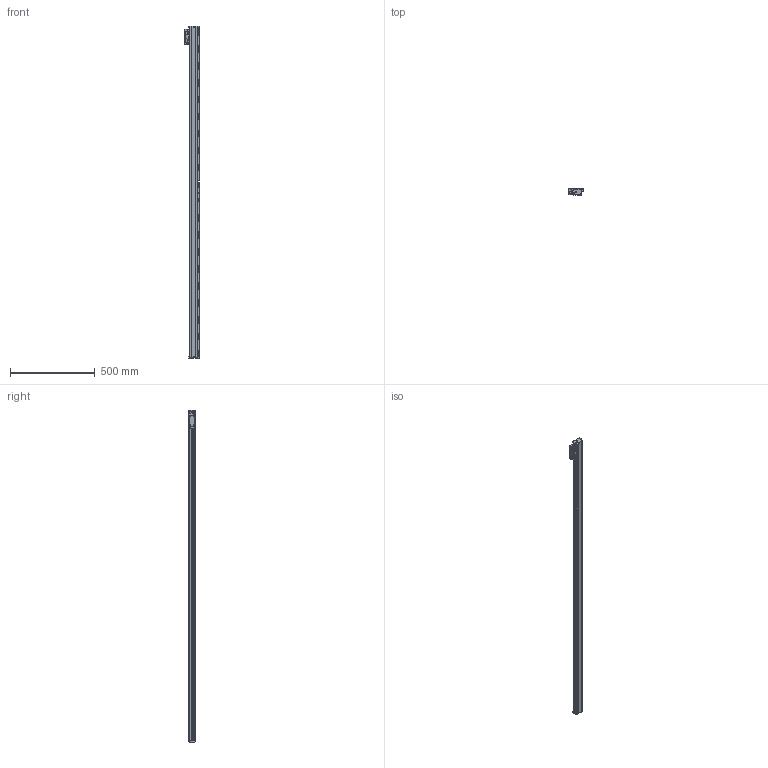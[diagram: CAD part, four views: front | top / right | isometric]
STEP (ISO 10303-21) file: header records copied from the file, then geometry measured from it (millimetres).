
FILE_DESCRIPTION(/* description */ (''),/* implementation_level */ '2;1');
FILE_NAME(/* name */ 'JC21A-1840-1.stp',/* time_stamp */ '2023-12-21T17:01:26+08:00',/* author */ (''),/* organization */ (''),/* preprocessor_version */ 'ST-DEVELOPER v14',/* originating_system */ 'SIEMENS PLM Software NX 8.0',/* authorisation */ '');
FILE_SCHEMA (('CONFIG_CONTROL_DESIGN'));
Length unit declared in the file: millimetre
Products named in the file (1): JC21A-1840-1
Bounding box: 87.5 x 37 x 1961 mm (x, y, z)
Volume: 3073081.2 mm3; surface area: 502417.3 mm2
Topology: 4 solids, 6 shells, 1135 faces, 3380 edges, 2249 vertices
Faces by surface type: plane 710, cylinder 393, cone 22, bspline 8, extrusion 2
Full cylindrical faces by diameter (mm): 2.5 x12, 3.3 x6, 3.7 x4, 4.2 x4, 5 x2, 6 x6, 6.6 x2, 6.8 x22, 7 x2, 13.2 x2
Entity records: 38871 total; most frequent: CARTESIAN_POINT 7907, ORIENTED_EDGE 6516, DIRECTION 6426, EDGE_CURVE 3258, VERTEX_POINT 2211, AXIS2_PLACEMENT_3D 2151, VECTOR 2124, LINE 2122
